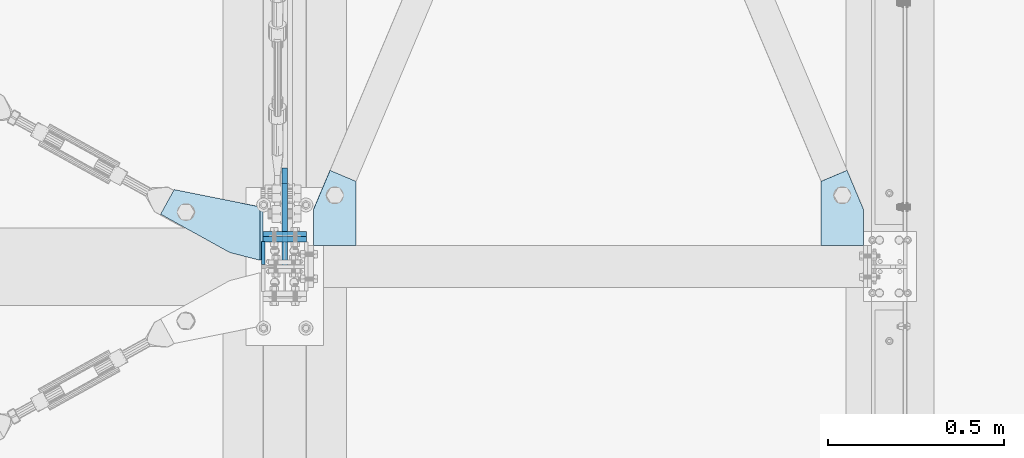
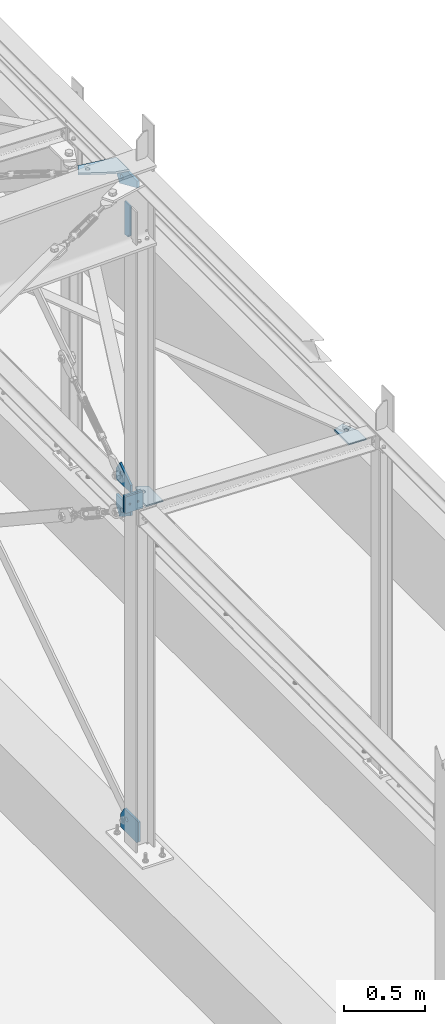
# One storey, part 47 of 476: 10 plates, 22 openings.
"""IFC2X3 building model written with IfcOpenShell, lengths in millimetres."""

from ifc_helpers import new_model, entity, si_unit, converted_unit, point, frame, frame_2d, origin, origin_with_axes, origin_2d_with_axis, place, context, project, spatial, polyline, circle_curve, line_curve, trimmed, segment, composite_curve, circle, outline, extrude, material, layer, layer_set, element, save


model = new_model("IFC2X3")

# Units and contexts
model_context = context("Model", 3, precision=1e-09, world=origin_with_axes())
ifc_project = project(units=[si_unit("LENGTHUNIT", "METRE", prefix="MILLI"), si_unit("AREAUNIT", "SQUARE_METRE"), si_unit("VOLUMEUNIT", "CUBIC_METRE"), converted_unit("PLANEANGLEUNIT", "DEGREE", entity("IfcPlaneAngleMeasure", 0.01745329), si_unit("PLANEANGLEUNIT", "RADIAN"), dimensions=[0, 0, 0, 0, 0, 0, 0])], contexts=[model_context])

# Site, building, storey
site_placement = place(None, origin_with_axes())
site = spatial("IfcSite", under=ifc_project, at=site_placement, Name="mKR Teilneubau & Sanierung BA1 - Ostfildern", CompositionType="ELEMENT")
building_placement = place(site_placement, origin_with_axes())
building = spatial("IfcBuilding", under=site, at=building_placement, Name="Struktur 1", CompositionType="ELEMENT")
storey_placement = place(building_placement, origin_with_axes())
storey = spatial("IfcBuildingStorey", under=building, at=storey_placement, Name="Default Storey", CompositionType="ELEMENT", Elevation=0.0)

# Plate, openings
ifc_material = material(Name="S235JR")
ifc_layer_1 = layer(ifc_material, 15.0)
ifc_layer_set_1 = layer_set([ifc_layer_1], Name="S235JR")
plate_1_placement = place(None, frame((21903.92386925, -9747.67487897, 5627.158981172), z_axis=(0.030019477, 0.0, -0.999549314), x_axis=(-0.999549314, 0.0, -0.030019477)))
plate_1 = element("IfcPlate", 1, at=plate_1_placement, inside=storey, material=ifc_layer_set_1, Name="-", ObjectType="-", context=model_context, shape_type="SweptSolid", body=[
    extrude(outline(polyline([(0.0, 0.0), (55.140356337, 0.0), (291.381008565, 130.729269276), (252.646618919, 200.726934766), (1e-09, 150.0), (0.0, 0.0)])), origin_with_axes(), (0.0, 0.0, 1.0), 15.0),
])
opening_1_placement = place(plate_1_placement, frame((0.0, 0.0, -0.01), z_axis=(0.0, 0.0, 1.0), x_axis=(1.0, 0.0, 0.0)))
element("IfcOpeningElement", 2, at=opening_1_placement, cuts=plate_1, ObjectType="Opening", context=model_context, shape_type="SweptSolid", body=[
    extrude(outline(composite_curve([segment(trimmed(line_curve((55.140356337, 0.0), (0.874966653, 0.484183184), 45.191234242), [point((55.140356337, 0.0))], [point((94.681179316, 21.880835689))], True, "CARTESIAN"), True, "CONTINUOUS"), segment(trimmed(circle_curve(frame_2d((9.949122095, 175.0), x_axis=(-1.0, 0.0)), 175.0), [point((94.681179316, 21.880835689))], [point((9.949122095, 0.0))], False, "CARTESIAN"), True, "CONTINUOUS"), segment(trimmed(line_curve((9.949122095, 0.0), (1.0, 0.0), 45.191234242), [point((9.949122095, 0.0))], [point((55.140356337, 0.0))], True, "CARTESIAN"), True, "CONTINUOUS")], self_intersect=False)), origin(), (0.0, 0.0, 1.0), 15.02),
])
opening_2_placement = place(plate_1_placement, frame((1e-09, 151.607257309, 0.0), z_axis=(0.0, -1.0, 0.0), x_axis=(1.0, 0.0, 0.0)))
element("IfcOpeningElement", 3, at=opening_2_placement, cuts=plate_1, ObjectType="Opening", context=model_context, shape_type="SweptSolid", body=[
    extrude(outline(polyline([(0.0, 0.0), (8.0, 0.0), (0.0, 8.0), (0.0, 0.0)])), origin(), (0.0, 0.0, 1.0), 151.628257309),
])
opening_3_placement = place(plate_1_placement, frame((219.516286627, 136.677834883, 15.499690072), z_axis=(2.2474e-05, 0.0, -1.0), x_axis=(0.874966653, 0.484183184, 1.9664e-05)))
element("IfcOpeningElement", 4, at=opening_3_placement, cuts=plate_1, ObjectType="Opening", context=model_context, shape_type="SweptSolid", body=[
    extrude(circle(Radius=14.501, at=origin_2d_with_axis()), origin(), (0.0, 0.0, 1.0), 16.000000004),
])

# Plate, opening
plate_2_placement = place(None, frame((21958.108780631, -9665.67287897, 3011.000017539), z_axis=(-1.0, 0.0, 0.0), x_axis=(0.0, 1.0, 0.0)))
plate_2 = element("IfcPlate", 5, at=plate_2_placement, inside=storey, material=ifc_layer_set_1, Name="-", ObjectType="-", context=model_context, shape_type="SweptSolid", body=[
    extrude(outline(polyline([(0.0, 0.0), (180.0, 0.0), (180.0, 80.129571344), (135.88659144, 146.86792003), (0.0, 57.048174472), (0.0, 0.0)])), origin_with_axes(), (0.0, 0.0, -1.0), 15.0),
])
opening_4_placement = place(plate_2_placement, frame((107.889536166, 80.413686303, 0.5), z_axis=(0.0, 0.0, -1.0), x_axis=(1.0, 0.0, 0.0)))
element("IfcOpeningElement", 6, at=opening_4_placement, cuts=plate_2, ObjectType="Opening", context=model_context, shape_type="SweptSolid", body=[
    extrude(circle(Radius=16.001, at=origin_2d_with_axis()), origin(), (0.0, 0.0, 1.0), 16.0),
])

plate_3_placement = place(None, frame((21958.108780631, -9665.67287897, 5514.98719498), z_axis=(-1.0, 0.0, 0.0), x_axis=(0.0, 1.0, 0.0)))
plate_3 = element("IfcPlate", 7, at=plate_3_placement, inside=storey, material=ifc_layer_set_1, Name="-", ObjectType="-", context=model_context, shape_type="SweptSolid", body=[
    extrude(outline(polyline([(-82.0, 0.0), (180.0, 0.0), (180.0, 78.844356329), (136.118742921, 145.73557606), (-82.0, 50.0), (-82.0, 0.0)])), origin_with_axes(), (0.0, 0.0, -1.0), 15.0),
])
opening_5_placement = place(plate_3_placement, frame((91.889956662, 79.379023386, 0.5), z_axis=(0.0, 0.0, 1.0), x_axis=(1.0, 0.0, 0.0)))
element("IfcOpeningElement", 8, at=opening_5_placement, cuts=plate_3, ObjectType="Opening", context=model_context, shape_type="SweptSolid", body=[
    extrude(circle(Radius=16.001, at=frame_2d((16.001, 0.0), x_axis=(1.0, 0.0))), origin(), (0.0, 0.0, -1.0), 16.0),
])

# Plate, openings
plate_4_placement = place(None, frame((21958.108764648, -9723.67387897, 563.661243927), z_axis=(1.0, 0.0, 0.0), x_axis=(0.0, 1.0, 0.0)))
plate_4 = element("IfcPlate", 9, at=plate_4_placement, inside=storey, material=ifc_layer_set_1, Name="-", ObjectType="-", context=model_context, shape_type="SweptSolid", body=[
    extrude(outline(polyline([(-39.25, -18.661243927), (180.0, -18.661243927), (180.0, 80.129571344), (135.88659144, 146.86792003), (-39.25, 146.86792003), (-39.25, -18.661243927)])), origin_with_axes(), (0.0, 0.0, 1.0), 15.0),
])
opening_6_placement = place(plate_4_placement, frame((0.0, 0.0, -0.01), z_axis=(0.0, 0.0, 1.0), x_axis=(1.0, 0.0, 0.0)))
element("IfcOpeningElement", 10, at=opening_6_placement, cuts=plate_4, ObjectType="Opening", context=model_context, shape_type="SweptSolid", body=[
    extrude(outline(polyline([(-39.25, -18.661243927), (-19.25, -18.661243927), (-39.25, 1.338756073), (-39.25, -18.661243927)])), origin(), (0.0, 0.0, 1.0), 15.02),
])
opening_7_placement = place(plate_4_placement, frame((91.888536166, 80.413686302, -0.5), z_axis=(0.0, 0.0, -1.0), x_axis=(-1.0, 0.0, 0.0)))
element("IfcOpeningElement", 11, at=opening_7_placement, cuts=plate_4, ObjectType="Opening", context=model_context, shape_type="SweptSolid", body=[
    extrude(circle(Radius=16.001, at=frame_2d((-16.001, 0.0), x_axis=(1.0, 0.0))), origin(), (0.0, 0.0, -1.0), 16.0),
])

plate_5_placement = place(None, frame((23489.241863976, -9523.590360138, 2966.684261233), z_axis=(0.029057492, 0.0, 0.999577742), x_axis=(0.0, -1.0, 0.0)))
plate_5 = element("IfcPlate", 12, at=plate_5_placement, inside=storey, material=ifc_layer_set_1, Name="-", ObjectType="-", context=model_context, shape_type="SweptSolid", body=[
    extrude(outline(polyline([(0.0, 0.0), (182.083518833, 0.0), (182.083518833, 120.416747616), (79.371322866, 120.416747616), (-31.155014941, 73.684225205), (0.0, 0.0)])), origin_with_axes(), (0.0, 0.0, 1.0), 15.0),
])
opening_8_placement = place(plate_5_placement, frame((182.083518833, -0.001, 0.0), z_axis=(0.0, 1.0, 0.0), x_axis=(-1.0, 0.0, 0.0)))
element("IfcOpeningElement", 13, at=opening_8_placement, cuts=plate_5, ObjectType="Opening", context=model_context, shape_type="SweptSolid", body=[
    extrude(outline(polyline([(0.0, 0.0), (8.0, 0.0), (0.0, 8.0), (0.0, 0.0)])), origin(), (0.0, 0.0, 1.0), 120.438747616),
])
opening_9_placement = place(plate_5_placement, frame((39.685661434, 60.208373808, -0.5), z_axis=(0.0, 0.0, 1.0), x_axis=(-1.0, 0.0, 0.0)))
element("IfcOpeningElement", 14, at=opening_9_placement, cuts=plate_5, ObjectType="Opening", context=model_context, shape_type="SweptSolid", body=[
    extrude(circle(Radius=14.501, at=origin_2d_with_axis()), origin(), (0.0, 0.0, 1.0), 16.0),
])

plate_6_placement = place(None, frame((22167.911527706, -9523.590360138, 3020.101363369), z_axis=(-0.029057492, 0.0, -0.999577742), x_axis=(0.0, -1.0, 0.0)))
plate_6 = element("IfcPlate", 15, at=plate_6_placement, inside=storey, material=ifc_layer_set_1, Name="-", ObjectType="-", context=model_context, shape_type="SweptSolid", body=[
    extrude(outline(polyline([(0.0, 0.0), (182.083518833, 0.0), (182.083518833, 120.416747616), (79.371322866, 120.416747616), (-31.155014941, 73.684225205), (0.0, 0.0)])), origin_with_axes(), (0.0, 0.0, 1.0), 15.0),
])
opening_10_placement = place(plate_6_placement, frame((182.083518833, 120.417747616, 15.0), z_axis=(0.0, -1.0, 0.0), x_axis=(-1.0, 0.0, 0.0)))
element("IfcOpeningElement", 16, at=opening_10_placement, cuts=plate_6, ObjectType="Opening", context=model_context, shape_type="SweptSolid", body=[
    extrude(outline(polyline([(0.0, 0.0), (8.0, 0.0), (0.0, 8.0), (0.0, 0.0)])), origin(), (0.0, 0.0, 1.0), 120.438747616),
])
opening_11_placement = place(plate_6_placement, frame((39.685661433, 60.208373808, 15.5), z_axis=(0.0, 0.0, -1.0), x_axis=(-1.0, 0.0, 0.0)))
element("IfcOpeningElement", 17, at=opening_11_placement, cuts=plate_6, ObjectType="Opening", context=model_context, shape_type="SweptSolid", body=[
    extrude(circle(Radius=14.501, at=origin_2d_with_axis()), origin(), (0.0, 0.0, 1.0), 16.0),
])

# Plate, opening
plate_7_placement = place(None, frame((21958.108780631, -9665.67287897, 3125.000017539), z_axis=(1.0, 0.0, 0.0), x_axis=(0.0, 1.0, 0.0)))
plate_7 = element("IfcPlate", 18, at=plate_7_placement, inside=storey, material=ifc_layer_set_1, Name="-", ObjectType="-", context=model_context, shape_type="SweptSolid", body=[
    extrude(outline(polyline([(0.0, 0.0), (180.0, 0.0), (180.0, 78.844356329), (136.118742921, 145.73557606), (0.0, 56.440425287), (0.0, 0.0)])), origin_with_axes(), (0.0, 0.0, 1.0), 15.0),
])
opening_12_placement = place(plate_7_placement, frame((107.890956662, 79.379023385, -0.5), z_axis=(0.0, 0.0, 1.0), x_axis=(1.0, 0.0, 0.0)))
element("IfcOpeningElement", 19, at=opening_12_placement, cuts=plate_7, ObjectType="Opening", context=model_context, shape_type="SweptSolid", body=[
    extrude(circle(Radius=16.001, at=origin_2d_with_axis()), origin(), (0.0, 0.0, 1.0), 16.0),
])

# Plate, openings
plate_8_placement = place(None, frame((21965.608780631, -9665.67387897, 3068.000017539), z_axis=(0.0, -1.0, 0.0), x_axis=(0.0, 0.0, -1.0)))
plate_8 = element("IfcPlate", 20, at=plate_8_placement, inside=storey, material=ifc_layer_set_1, Name="Endplate#1", ObjectType="Endplate#1", context=model_context, shape_type="SweptSolid", body=[
    extrude(outline(polyline([(-62.0, -62.0), (62.0, -62.0), (62.0, 62.0), (-62.0, 62.0), (-62.0, -62.0)])), origin_with_axes(), (0.0, 0.0, 1.0), 15.0),
])
opening_13_placement = place(plate_8_placement, frame((37.0, -14.5, 15.5), z_axis=(0.0, 0.0, -1.0), x_axis=(1.0, 0.0, 0.0)))
element("IfcOpeningElement", 21, at=opening_13_placement, cuts=plate_8, ObjectType="Opening", context=model_context, shape_type="SweptSolid", body=[
    extrude(circle(Radius=6.001, at=origin_2d_with_axis()), origin(), (0.0, 0.0, 1.0), 16.0),
])
opening_14_placement = place(plate_8_placement, frame((-37.0, -14.5, 15.5), z_axis=(0.0, 0.0, -1.0), x_axis=(1.0, 0.0, 0.0)))
element("IfcOpeningElement", 22, at=opening_14_placement, cuts=plate_8, ObjectType="Opening", context=model_context, shape_type="SweptSolid", body=[
    extrude(circle(Radius=6.001, at=origin_2d_with_axis()), origin(), (0.0, 0.0, 1.0), 16.0),
])
opening_15_placement = place(plate_8_placement, frame((-37.0, 14.5, 15.5), z_axis=(0.0, 0.0, -1.0), x_axis=(1.0, 0.0, 0.0)))
element("IfcOpeningElement", 23, at=opening_15_placement, cuts=plate_8, ObjectType="Opening", context=model_context, shape_type="SweptSolid", body=[
    extrude(circle(Radius=6.001, at=origin_2d_with_axis()), origin(), (0.0, 0.0, 1.0), 16.0),
])
opening_16_placement = place(plate_8_placement, frame((37.0, 14.5, 15.5), z_axis=(0.0, 0.0, -1.0), x_axis=(1.0, 0.0, 0.0)))
element("IfcOpeningElement", 24, at=opening_16_placement, cuts=plate_8, ObjectType="Opening", context=model_context, shape_type="SweptSolid", body=[
    extrude(circle(Radius=6.001, at=origin_2d_with_axis()), origin(), (0.0, 0.0, 1.0), 16.0),
])
opening_17_placement = place(plate_8_placement, frame((0.0, 30.0, 15.5), z_axis=(0.0, 0.0, -1.0), x_axis=(-1.0, 0.0, 0.0)))
element("IfcOpeningElement", 25, at=opening_17_placement, cuts=plate_8, ObjectType="Opening", context=model_context, shape_type="SweptSolid", body=[
    extrude(circle(Radius=7.001, at=origin_2d_with_axis()), origin(), (0.0, 0.0, 1.0), 16.0),
])
opening_18_placement = place(plate_8_placement, frame((0.0, -30.0, 15.5), z_axis=(0.0, 0.0, -1.0), x_axis=(0.0, -1.0, 0.0)))
element("IfcOpeningElement", 26, at=opening_18_placement, cuts=plate_8, ObjectType="Opening", context=model_context, shape_type="SweptSolid", body=[
    extrude(circle(Radius=7.001, at=origin_2d_with_axis()), origin(), (0.0, 0.0, 1.0), 16.0),
])

plate_9_placement = place(None, frame((21965.608764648, -9695.67387897, 3068.000017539), z_axis=(0.0, 1.0, 0.0), x_axis=(1.0, 0.0, 0.0)))
plate_9 = element("IfcPlate", 27, at=plate_9_placement, inside=storey, material=ifc_layer_set_1, Name="T-plate", ObjectType="T-plate", context=model_context, shape_type="SweptSolid", body=[
    extrude(outline(polyline([(-62.0, -62.0), (62.0, -62.0), (62.0, 62.0), (-62.0, 62.0), (-62.0, -62.0)])), origin_with_axes(), (0.0, 0.0, 1.0), 15.0),
])
opening_19_placement = place(plate_9_placement, frame((-29.999984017, 0.0, -0.5), z_axis=(0.0, 0.0, 1.0), x_axis=(-1.0, 0.0, 0.0)))
element("IfcOpeningElement", 28, at=opening_19_placement, cuts=plate_9, ObjectType="Opening", context=model_context, shape_type="SweptSolid", body=[
    extrude(circle(Radius=7.001, at=origin_2d_with_axis()), origin(), (0.0, 0.0, 1.0), 16.0),
])
opening_20_placement = place(plate_9_placement, frame((30.000015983, 0.0, -0.5), z_axis=(0.0, 0.0, 1.0), x_axis=(0.0, -1.0, 0.0)))
element("IfcOpeningElement", 29, at=opening_20_placement, cuts=plate_9, ObjectType="Opening", context=model_context, shape_type="SweptSolid", body=[
    extrude(circle(Radius=7.001, at=origin_2d_with_axis()), origin(), (0.0, 0.0, 1.0), 16.0),
])

ifc_layer_2 = layer(ifc_material, 10.0)
ifc_layer_set_2 = layer_set([ifc_layer_2], Name="S235JR")
plate_10_placement = place(None, frame((21909.108764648, -9694.67387897, 5107.553116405), z_axis=(-1.0, 0.0, 0.0), x_axis=(0.0, -1.0, 0.0)))
plate_10 = element("IfcPlate", 30, at=plate_10_placement, inside=storey, material=ifc_layer_set_2, Name="Stiffener#2", ObjectType="Stiffener#2", context=model_context, shape_type="SweptSolid", body=[
    extrude(outline(polyline([(0.0, 0.0), (65.0, 0.0), (65.0, 250.0), (0.0, 250.0), (0.0, 0.0)])), origin_with_axes(), (0.0, 0.0, 1.0), 10.0),
])
opening_21_placement = place(plate_10_placement, frame((0.0, 0.0, -0.01), z_axis=(0.0, 0.0, 1.0), x_axis=(1.0, 0.0, 0.0)))
element("IfcOpeningElement", 31, at=opening_21_placement, cuts=plate_10, ObjectType="Opening", context=model_context, shape_type="SweptSolid", body=[
    extrude(outline(composite_curve([segment(trimmed(line_curve((65.0, 0.0), (0.0, 1.0), 25.0), [point((65.0, 0.0))], [point((65.0, 25.0))], True, "CARTESIAN"), True, "CONTINUOUS"), segment(trimmed(circle_curve(frame_2d((40.0, 25.0), x_axis=(-1.0, 0.0)), 25.0), [point((65.0, 25.0))], [point((40.0, 0.0))], False, "CARTESIAN"), True, "CONTINUOUS"), segment(trimmed(line_curve((40.0, 0.0), (1.0, 0.0), 25.0), [point((40.0, 0.0))], [point((65.0, 0.0))], True, "CARTESIAN"), True, "CONTINUOUS")], self_intersect=False)), origin(), (0.0, 0.0, 1.0), 10.02),
])
opening_22_placement = place(plate_10_placement, frame((41.0, 22.198767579, -0.5), z_axis=(0.0, 0.0, 1.0), x_axis=(0.0, -1.0, 0.0)))
element("IfcOpeningElement", 32, at=opening_22_placement, cuts=plate_10, ObjectType="Opening", context=model_context, shape_type="SweptSolid", body=[
    extrude(circle(Radius=7.001, at=frame_2d((7.0, 7.0), x_axis=(1.0, 0.0))), origin(), (0.0, 0.0, 1.0), 11.0),
])

save(model, "model.ifc")
